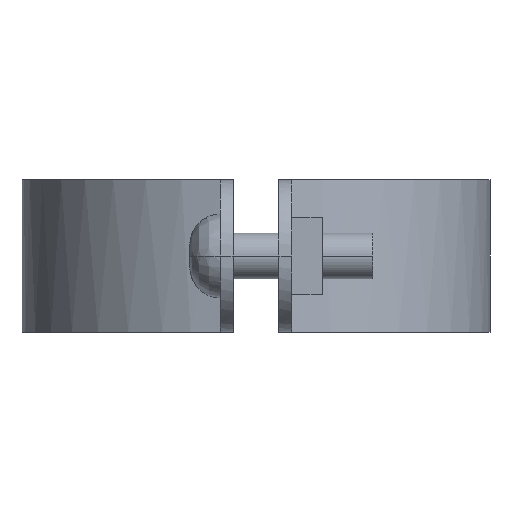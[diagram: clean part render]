
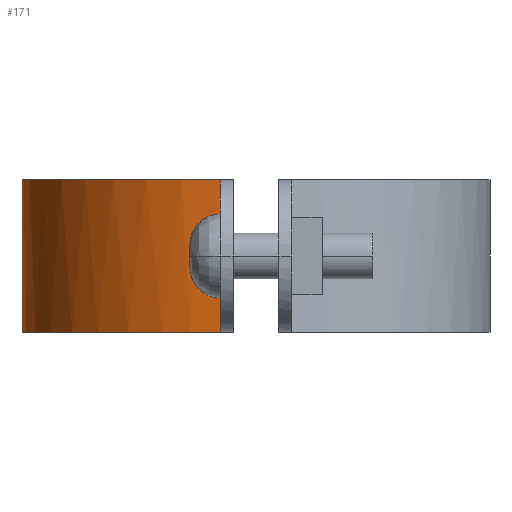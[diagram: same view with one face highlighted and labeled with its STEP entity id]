
A CAD part, left-side view. The second image highlights one B-rep face of the part: STEP entity #171.
In plain terms, the highlighted free-form (B-spline) face has degree [3, 1] with [4, 2] control points.
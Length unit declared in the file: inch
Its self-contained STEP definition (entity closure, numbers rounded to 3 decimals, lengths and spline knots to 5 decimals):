
#171=ADVANCED_FACE('',(#384),#385,.T.);
#384=FACE_OUTER_BOUND('',#680,.T.);
#385=B_SPLINE_SURFACE_WITH_KNOTS('',3,1,((#681,#682),(#683,#684),(#685,#686),(#687,#688)),.UNSPECIFIED.,.F.,.F.,.F.,(4,4),(2,2),(0.0,1.0),(0.0,1.25),.UNSPECIFIED.);
#680=EDGE_LOOP('',(#1412,#1413,#1414,#1415));
#681=CARTESIAN_POINT('',(2.67688,3.86289,0.0));
#682=CARTESIAN_POINT('',(2.67688,3.86289,1.25));
#683=CARTESIAN_POINT('',(1.73029,3.86289,0.0));
#684=CARTESIAN_POINT('',(1.73029,3.86289,1.25));
#685=CARTESIAN_POINT('',(0.9252,3.17253,0.0));
#686=CARTESIAN_POINT('',(0.9252,3.17253,1.25));
#687=CARTESIAN_POINT('',(0.7808,2.23701,0.0));
#688=CARTESIAN_POINT('',(0.7808,2.23701,1.25));
#1412=ORIENTED_EDGE('',*,*,#1952,.T.);
#1413=ORIENTED_EDGE('',*,*,#1986,.T.);
#1414=ORIENTED_EDGE('',*,*,#1987,.T.);
#1415=ORIENTED_EDGE('',*,*,#1988,.F.);
#1952=EDGE_CURVE('',#2216,#2228,#2230,.T.);
#1986=EDGE_CURVE('',#2228,#2286,#2287,.T.);
#1987=EDGE_CURVE('',#2286,#2288,#2289,.T.);
#1988=EDGE_CURVE('',#2216,#2288,#2290,.T.);
#2216=VERTEX_POINT('',#2614);
#2228=VERTEX_POINT('',#2634);
#2230=B_SPLINE_CURVE_WITH_KNOTS('',3,(#2637,#2638,#2639,#2640),.UNSPECIFIED.,.F.,.F.,(4,4),(0.0,1.0),.UNSPECIFIED.);
#2286=VERTEX_POINT('',#2725);
#2287=LINE('',#2726,#2727);
#2288=VERTEX_POINT('',#2728);
#2289=B_SPLINE_CURVE_WITH_KNOTS('',3,(#2729,#2730,#2731,#2732),.UNSPECIFIED.,.F.,.F.,(4,4),(-1.0,-0.0),.UNSPECIFIED.);
#2290=LINE('',#2733,#2734);
#2614=CARTESIAN_POINT('',(2.67688,3.86289,0.00012));
#2634=CARTESIAN_POINT('',(0.7808,2.23701,0.00012));
#2637=CARTESIAN_POINT('',(2.67688,3.86289,0.00012));
#2638=CARTESIAN_POINT('',(1.73029,3.86289,0.00012));
#2639=CARTESIAN_POINT('',(0.9252,3.17253,0.00012));
#2640=CARTESIAN_POINT('',(0.7808,2.23701,0.00012));
#2725=CARTESIAN_POINT('',(0.7808,2.23701,1.24992));
#2726=CARTESIAN_POINT('',(0.7808,2.23701,0.0));
#2727=VECTOR('',#3353,1.0);
#2728=CARTESIAN_POINT('',(2.67688,3.86289,1.24992));
#2729=CARTESIAN_POINT('',(0.7808,2.23701,1.24992));
#2730=CARTESIAN_POINT('',(0.9252,3.17253,1.24992));
#2731=CARTESIAN_POINT('',(1.73029,3.86289,1.24992));
#2732=CARTESIAN_POINT('',(2.67688,3.86289,1.24992));
#2733=CARTESIAN_POINT('',(2.67688,3.86289,0.0));
#2734=VECTOR('',#3354,1.0);
#3353=DIRECTION('',(0.0,0.0,1.0));
#3354=DIRECTION('',(0.0,0.0,1.0));
